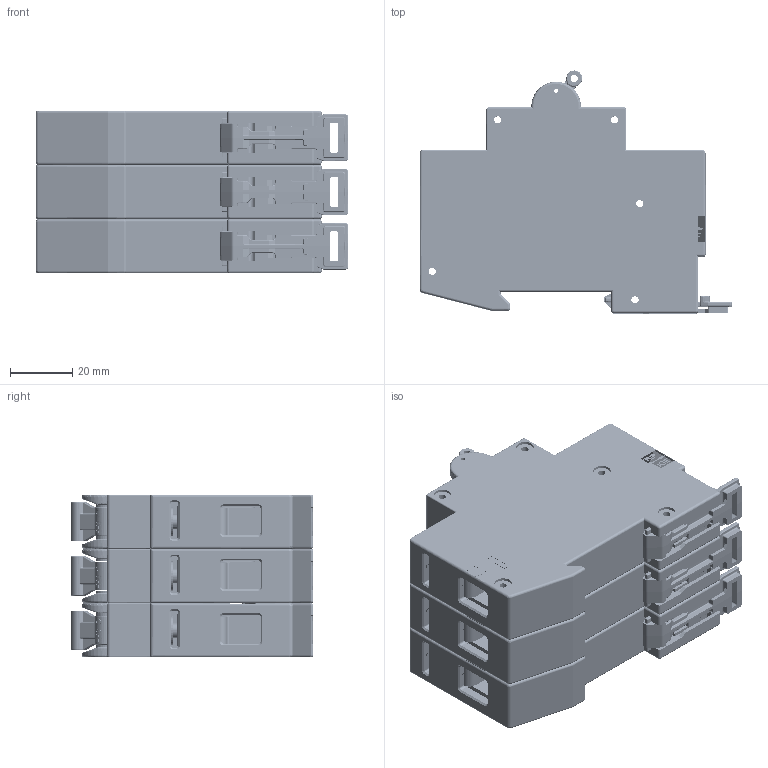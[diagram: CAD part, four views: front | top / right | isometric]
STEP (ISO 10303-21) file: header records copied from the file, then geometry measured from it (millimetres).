
FILE_DESCRIPTION((''),'2;1');
FILE_NAME('C:\Niriawan\Project\3D tekeningen\2012-3p_no_aux_wrp\2012-3p_no_aux_wrp.stp','2011-02-18T13:16:09',('oey'),(''),'Autodesk Inventor 2011','Autodesk Inventor 2011','');
FILE_SCHEMA(('AUTOMOTIVE_DESIGN { 1 0 10303 214 1 1 1 1 }'));
Length unit declared in the file: inch
Products named in the file (1): 2012-3p_no_aux_wrp
Bounding box: 100.66 x 78.17 x 52.43 mm (x, y, z)
Surface area: 102352.3 mm2 (no closed solid volume)
Topology: 0 solids, 162 shells, 5864 faces, 19520 edges, 13514 vertices
Faces by surface type: plane 3394, cylinder 1675, bspline 321, torus 245, sphere 118, cone 111
Full cylindrical faces by diameter (mm): 1.397 x6, 1.651 x3, 1.676 x3, 2.235 x3, 2.337 x24, 2.362 x6, 2.388 x3, 2.413 x3, 2.769 x3, 3.175 x6, 3.2 x3, 4.42 x6, 4.826 x6, 5.334 x3, 5.588 x30, 6.198 x3, 7.112 x3, 9.473 x3
Entity records: 234066 total; most frequent: CARTESIAN_POINT 67100, DIRECTION 33355, ORIENTED_EDGE 32950, EDGE_CURVE 19241, VECTOR 13741, LINE 13741, VERTEX_POINT 13463, AXIS2_PLACEMENT_3D 9807
